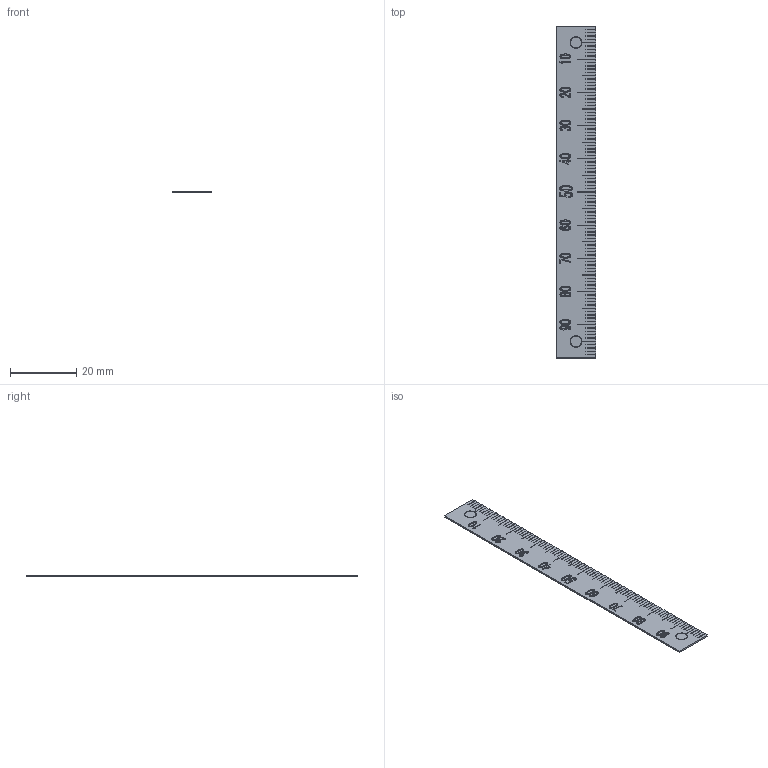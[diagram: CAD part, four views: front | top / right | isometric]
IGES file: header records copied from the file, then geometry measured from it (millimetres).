
Start section: SolidWorks IGES file using analytic representation for surfaces
Global section: file name: Y:\5.更新分\2023年対応\04xx_ALL\E\ES1N-D100L\es1n-d100l.IGS; native system: SolidWorks 2021; preprocessor: SolidWorks 2021; author: ImaoCorp; date: 230615.160626; units: millimetre
Bounding box: 12 x 100 x 0.5 mm (x, y, z)
Surface area: 2521.4 mm2 (no closed solid volume)
Topology: 0 solids, 0 shells, 767 faces, 8103 edges, 8103 vertices
Faces by surface type: bspline 759, revolution 8
